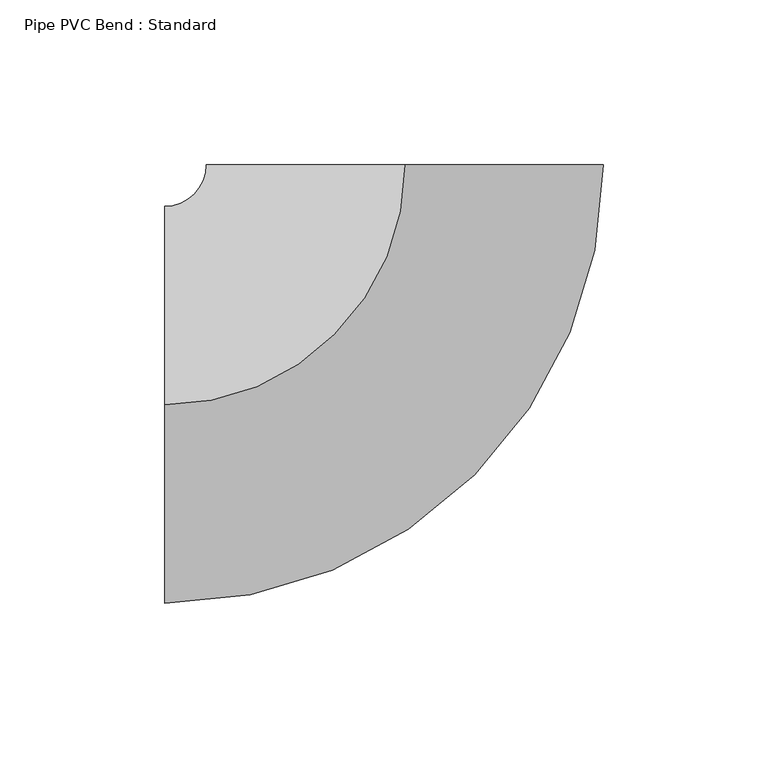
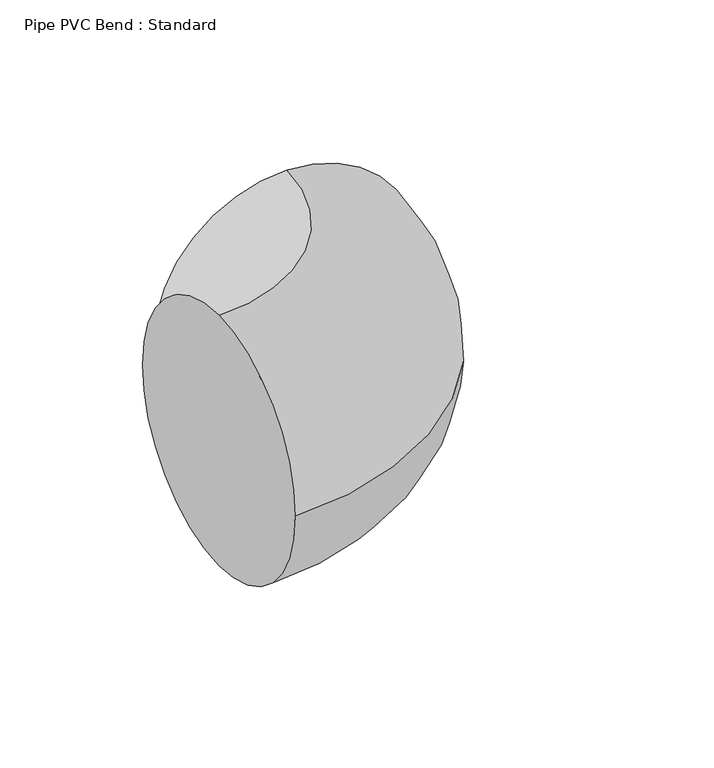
"""IFC4 building model written with IfcOpenShell, lengths in millimetres: pipe fitting geometry, Pipe PVC Bend : Standard."""

from ifc_helpers import new_model, si_unit, point, frame, origin, place, context, project, spatial, circle_curve, ellipse_curve, trimmed, source, transform, mapped, element, save
from ifc_brep_helpers import plane_surface, revolved_surface, advanced_brep


def pipe_pvc_bend_standard_4dbec4a6(model_context):
    return source(origin(), model_context, "Body", "AdvancedBrep", [
        advanced_brep(
        [(-73.0269045, 0.0, 60.325), (-73.0269045, 60.325, 0.0), (-73.0269045, 0.0, -60.325), (-73.0269045, -60.325, 0.0), (-0.0019045, 73.0269045, 60.325), (60.3230954, 73.0284777, 0.0), (-0.0019045, 73.0269045, -60.325), (-60.3269045, 73.0253312, 0.0)],
        [
            (0, 1, circle_curve(frame((-73.0269045, 0.0, 0.0), z_axis=(-1.0, 0.0, 0.0), x_axis=(0.0, 1.0, 0.0)), 60.325)),
            (1, 2, circle_curve(frame((-73.0269045, 0.0, 0.0), z_axis=(-1.0, 0.0, 0.0), x_axis=(0.0, 1.0, 0.0)), 60.325)),
            (2, 3, circle_curve(frame((-73.0269045, 0.0, 0.0), z_axis=(-1.0, 0.0, 0.0), x_axis=(0.0, 1.0, 0.0)), 60.325)),
            (3, 0, circle_curve(frame((-73.0269045, 0.0, 0.0), z_axis=(-1.0, 0.0, 0.0), x_axis=(0.0, 1.0, 0.0)), 60.325)),
            (4, 5, circle_curve(frame((-0.0019045, 73.0269045, 0.0), z_axis=(-2.6079853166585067e-05, 0.9999999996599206, 0.0), x_axis=(-0.9999999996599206, -2.6079853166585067e-05, 0.0)), 60.325)),
            (5, 6, circle_curve(frame((-0.0019045, 73.0269045, 0.0), z_axis=(-2.6079853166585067e-05, 0.9999999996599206, 0.0), x_axis=(-0.9999999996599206, -2.6079853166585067e-05, 0.0)), 60.325)),
            (6, 7, circle_curve(frame((-0.0019045, 73.0269045, 0.0), z_axis=(-2.6079853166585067e-05, 0.9999999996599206, 0.0), x_axis=(-0.9999999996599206, -2.6079853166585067e-05, 0.0)), 60.325)),
            (7, 4, circle_curve(frame((-0.0019045, 73.0269045, 0.0), z_axis=(-2.6079853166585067e-05, 0.9999999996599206, 0.0), x_axis=(-0.9999999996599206, -2.6079853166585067e-05, 0.0)), 60.325)),
            (7, 1, circle_curve(frame((-73.0269045, 73.025, 0.0), z_axis=(0.0, 0.0, -1.0), x_axis=(0.0, -1.0, 0.0)), 12.7)),
            (0, 4, circle_curve(frame((-73.0269045, 73.025, 60.325), z_axis=(0.0, 0.0, 1.0), x_axis=(0.0, -1.0, 0.0)), 73.025)),
            (6, 2, circle_curve(frame((-73.0269045, 73.025, -60.325), z_axis=(0.0, 0.0, -1.0), x_axis=(0.0, -1.0, 0.0)), 73.025)),
            (5, 3, circle_curve(frame((-73.0269045, 73.025, 0.0), z_axis=(0.0, 0.0, -1.0), x_axis=(0.0, -1.0, 0.0)), 133.35)),
        ],
        [
            plane_surface(frame((-73.0269045, 0.0, 0.0), z_axis=(-1.0, 0.0, 0.0), x_axis=(0.0, 0.0, 1.0))),
            plane_surface(frame((-0.0019045, 73.0269045, 0.0), z_axis=(-2.6079853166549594e-05, 0.9999999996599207, 0.0), x_axis=(0.0, 0.0, 1.0))),
            revolved_surface(trimmed(ellipse_curve(frame((-73.0269045, 0.0, 0.0), z_axis=(-1.0, 0.0, 0.0), x_axis=(0.0, 1.0, 0.0)), 60.325, 60.325), [point((-73.0269045, 0.0, 60.325))], [point((-73.0269045, 60.325, 0.0))], True, "CARTESIAN"), (-73.0269045, 73.025, 0.0), (0.0, 0.0, 1.0)),
            revolved_surface(trimmed(ellipse_curve(frame((-73.0269045, 0.0, 0.0), z_axis=(-1.0, 0.0, 0.0), x_axis=(0.0, 1.0, 0.0)), 60.325, 60.325), [point((-73.0269045, 60.325, 0.0))], [point((-73.0269045, 0.0, -60.325))], True, "CARTESIAN"), (-73.0269045, 73.025, 0.0), (0.0, 0.0, 1.0)),
            revolved_surface(trimmed(ellipse_curve(frame((-73.0269045, 0.0, 0.0), z_axis=(-1.0, 0.0, 0.0), x_axis=(0.0, 1.0, 0.0)), 60.325, 60.325), [point((-73.0269045, 0.0, -60.325))], [point((-73.0269045, -60.325, 0.0))], True, "CARTESIAN"), (-73.0269045, 73.025, 0.0), (0.0, 0.0, 1.0)),
            revolved_surface(trimmed(ellipse_curve(frame((-73.0269045, 0.0, 0.0), z_axis=(-1.0, 0.0, 0.0), x_axis=(0.0, 1.0, 0.0)), 60.325, 60.325), [point((-73.0269045, -60.325, 0.0))], [point((-73.0269045, 0.0, 60.325))], True, "CARTESIAN"), (-73.0269045, 73.025, 0.0), (0.0, 0.0, 1.0)),
        ],
        [
            (0, [[1, 2, 3, 4]]),
            (1, [[5, 6, 7, 8]]),
            (2, [[9, -1, 10, -8]]),
            (3, [[11, -2, -9, -7]]),
            (4, [[12, -3, -11, -6]]),
            (5, [[-10, -4, -12, -5]]),
        ],
    ),
        advanced_brep(
        [(-73.0269045, 0.0, 60.325), (-73.0269045, 60.325, 0.0), (-73.0269045, 0.0, -60.325), (-73.0269045, -60.325, 0.0), (-0.0019045, 73.0269045, 60.325), (60.3230954, 73.0284777, 0.0), (-0.0019045, 73.0269045, -60.325), (-60.3269045, 73.0253312, 0.0)],
        [
            (0, 1, circle_curve(frame((-73.0269045, 0.0, 0.0), z_axis=(-1.0, 0.0, 0.0), x_axis=(0.0, 1.0, 0.0)), 60.325)),
            (1, 2, circle_curve(frame((-73.0269045, 0.0, 0.0), z_axis=(-1.0, 0.0, 0.0), x_axis=(0.0, 1.0, 0.0)), 60.325)),
            (2, 3, circle_curve(frame((-73.0269045, 0.0, 0.0), z_axis=(-1.0, 0.0, 0.0), x_axis=(0.0, 1.0, 0.0)), 60.325)),
            (3, 0, circle_curve(frame((-73.0269045, 0.0, 0.0), z_axis=(-1.0, 0.0, 0.0), x_axis=(0.0, 1.0, 0.0)), 60.325)),
            (4, 5, circle_curve(frame((-0.0019045, 73.0269045, 0.0), z_axis=(-2.6079853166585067e-05, 0.9999999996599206, 0.0), x_axis=(-0.9999999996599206, -2.6079853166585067e-05, 0.0)), 60.325)),
            (5, 6, circle_curve(frame((-0.0019045, 73.0269045, 0.0), z_axis=(-2.6079853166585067e-05, 0.9999999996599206, 0.0), x_axis=(-0.9999999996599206, -2.6079853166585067e-05, 0.0)), 60.325)),
            (6, 7, circle_curve(frame((-0.0019045, 73.0269045, 0.0), z_axis=(-2.6079853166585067e-05, 0.9999999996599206, 0.0), x_axis=(-0.9999999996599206, -2.6079853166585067e-05, 0.0)), 60.325)),
            (7, 4, circle_curve(frame((-0.0019045, 73.0269045, 0.0), z_axis=(-2.6079853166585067e-05, 0.9999999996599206, 0.0), x_axis=(-0.9999999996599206, -2.6079853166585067e-05, 0.0)), 60.325)),
            (7, 1, circle_curve(frame((-73.0269045, 73.025, 0.0), z_axis=(0.0, 0.0, -1.0), x_axis=(0.0, -1.0, 0.0)), 12.7)),
            (0, 4, circle_curve(frame((-73.0269045, 73.025, 60.325), z_axis=(0.0, 0.0, 1.0), x_axis=(0.0, -1.0, 0.0)), 73.025)),
            (6, 2, circle_curve(frame((-73.0269045, 73.025, -60.325), z_axis=(0.0, 0.0, -1.0), x_axis=(0.0, -1.0, 0.0)), 73.025)),
            (5, 3, circle_curve(frame((-73.0269045, 73.025, 0.0), z_axis=(0.0, 0.0, -1.0), x_axis=(0.0, -1.0, 0.0)), 133.35)),
        ],
        [
            plane_surface(frame((-73.0269045, 0.0, 0.0), z_axis=(-1.0, 0.0, 0.0), x_axis=(0.0, 0.0, 1.0))),
            plane_surface(frame((-0.0019045, 73.0269045, 0.0), z_axis=(-2.6079853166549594e-05, 0.9999999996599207, 0.0), x_axis=(0.0, 0.0, 1.0))),
            revolved_surface(trimmed(ellipse_curve(frame((-73.0269045, 0.0, 0.0), z_axis=(-1.0, 0.0, 0.0), x_axis=(0.0, 1.0, 0.0)), 60.325, 60.325), [point((-73.0269045, 0.0, 60.325))], [point((-73.0269045, 60.325, 0.0))], True, "CARTESIAN"), (-73.0269045, 73.025, 0.0), (0.0, 0.0, 1.0)),
            revolved_surface(trimmed(ellipse_curve(frame((-73.0269045, 0.0, 0.0), z_axis=(-1.0, 0.0, 0.0), x_axis=(0.0, 1.0, 0.0)), 60.325, 60.325), [point((-73.0269045, 60.325, 0.0))], [point((-73.0269045, 0.0, -60.325))], True, "CARTESIAN"), (-73.0269045, 73.025, 0.0), (0.0, 0.0, 1.0)),
            revolved_surface(trimmed(ellipse_curve(frame((-73.0269045, 0.0, 0.0), z_axis=(-1.0, 0.0, 0.0), x_axis=(0.0, 1.0, 0.0)), 60.325, 60.325), [point((-73.0269045, 0.0, -60.325))], [point((-73.0269045, -60.325, 0.0))], True, "CARTESIAN"), (-73.0269045, 73.025, 0.0), (0.0, 0.0, 1.0)),
            revolved_surface(trimmed(ellipse_curve(frame((-73.0269045, 0.0, 0.0), z_axis=(-1.0, 0.0, 0.0), x_axis=(0.0, 1.0, 0.0)), 60.325, 60.325), [point((-73.0269045, -60.325, 0.0))], [point((-73.0269045, 0.0, 60.325))], True, "CARTESIAN"), (-73.0269045, 73.025, 0.0), (0.0, 0.0, 1.0)),
        ],
        [
            (0, [[1, 2, 3, 4]]),
            (1, [[5, 6, 7, 8]]),
            (2, [[9, -1, 10, -8]]),
            (3, [[11, -2, -9, -7]]),
            (4, [[12, -3, -11, -6]]),
            (5, [[-10, -4, -12, -5]]),
        ],
    ),
    ])


if __name__ == "__main__":
    model = new_model("IFC4")
    model_context = context("Model", 3, world=origin())
    ifc_project = project(units=[si_unit("LENGTHUNIT", "METRE", prefix="MILLI")], contexts=[model_context])
    site = spatial("IfcSite", under=ifc_project)
    building = spatial("IfcBuilding", under=site)
    placement = place(None, origin())
    pipe_pvc_bend_standard_shape = pipe_pvc_bend_standard_4dbec4a6(model_context)
    element("IfcPipeFitting", 1, ObjectType="Pipe PVC Bend : Standard", at=placement, inside=building, context=model_context, shape_type="MappedRepresentation", body=[
        mapped(pipe_pvc_bend_standard_shape, transform((0.0, 0.0, 0.0), x_axis=(1.0, 0.0, 0.0), y_axis=(0.0, 1.0, 0.0), z_axis=(0.0, 0.0, 1.0))),
    ])
    save(model, "model.ifc")
